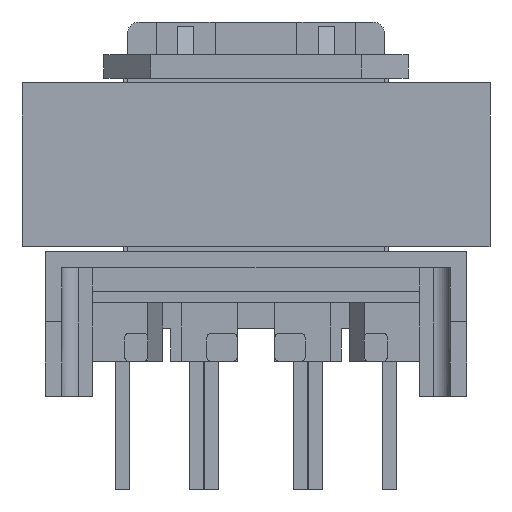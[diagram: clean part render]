
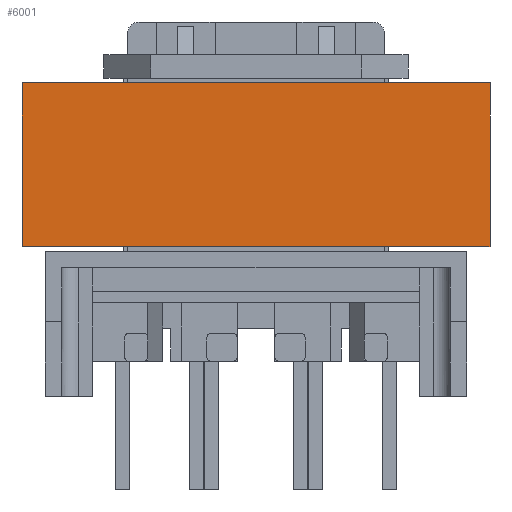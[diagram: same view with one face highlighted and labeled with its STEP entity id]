
A CAD part, front view. The second image highlights one B-rep face of the part: STEP entity #6001.
In plain terms, the highlighted planar face has unit normal (0, -1, 0).
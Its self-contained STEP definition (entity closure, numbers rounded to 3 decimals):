
#140 = DIRECTION ( 'NONE',  ( 1., 0., 0. ) ) ;
#377 = EDGE_CURVE ( 'NONE', #3216, #8623, #9729, .T. ) ;
#426 = ORIENTED_EDGE ( 'NONE', *, *, #6877, .T. ) ;
#736 = CARTESIAN_POINT ( 'NONE',  ( -4.285, -1.48, 6.4 ) ) ;
#1147 = CARTESIAN_POINT ( 'NONE',  ( -4.285, -1.48, 13.4 ) ) ;
#1255 = LINE ( 'NONE', #1147, #10059 ) ;
#1549 = DIRECTION ( 'NONE',  ( 1., 0., 0. ) ) ;
#1905 = CARTESIAN_POINT ( 'NONE',  ( 15.715, -1.48, 13.4 ) ) ;
#1964 = CARTESIAN_POINT ( 'NONE',  ( -4.285, -1.48, 6.4 ) ) ;
#2111 = ORIENTED_EDGE ( 'NONE', *, *, #2788, .T. ) ;
#2220 = VECTOR ( 'NONE', #1549, 1000. ) ;
#2385 = LINE ( 'NONE', #9374, #2220 ) ;
#2788 = EDGE_CURVE ( 'NONE', #5873, #8623, #6377, .T. ) ;
#3216 = VERTEX_POINT ( 'NONE', #7503 ) ;
#3428 = VECTOR ( 'NONE', #140, 1000. ) ;
#4088 = VERTEX_POINT ( 'NONE', #5332 ) ;
#5294 = AXIS2_PLACEMENT_3D ( 'NONE', #5832, #9311, #9985 ) ;
#5332 = CARTESIAN_POINT ( 'NONE',  ( -4.285, -1.48, 13.4 ) ) ;
#5832 = CARTESIAN_POINT ( 'NONE',  ( -4.285, -1.48, 13.4 ) ) ;
#5873 = VERTEX_POINT ( 'NONE', #736 ) ;
#6001 = ADVANCED_FACE ( 'NONE', ( #10163 ), #6695, .F. ) ;
#6377 = LINE ( 'NONE', #1964, #3428 ) ;
#6695 = PLANE ( 'NONE',  #5294 ) ;
#6877 = EDGE_CURVE ( 'NONE', #4088, #5873, #1255, .T. ) ;
#7063 = EDGE_CURVE ( 'NONE', #4088, #3216, #2385, .T. ) ;
#7503 = CARTESIAN_POINT ( 'NONE',  ( 15.715, -1.48, 13.4 ) ) ;
#8613 = ORIENTED_EDGE ( 'NONE', *, *, #377, .F. ) ;
#8623 = VERTEX_POINT ( 'NONE', #9277 ) ;
#8635 = VECTOR ( 'NONE', #8867, 1000. ) ;
#8867 = DIRECTION ( 'NONE',  ( 0., 0., -1. ) ) ;
#9277 = CARTESIAN_POINT ( 'NONE',  ( 15.715, -1.48, 6.4 ) ) ;
#9311 = DIRECTION ( 'NONE',  ( 0., 1., 0. ) ) ;
#9374 = CARTESIAN_POINT ( 'NONE',  ( -4.285, -1.48, 13.4 ) ) ;
#9514 = ORIENTED_EDGE ( 'NONE', *, *, #7063, .F. ) ;
#9729 = LINE ( 'NONE', #1905, #8635 ) ;
#9985 = DIRECTION ( 'NONE',  ( 0., 0., 1. ) ) ;
#10059 = VECTOR ( 'NONE', #10681, 1000. ) ;
#10163 = FACE_OUTER_BOUND ( 'NONE', #11198, .T. ) ;
#10681 = DIRECTION ( 'NONE',  ( 0., 0., -1. ) ) ;
#11198 = EDGE_LOOP ( 'NONE', ( #2111, #8613, #9514, #426 ) ) ;
